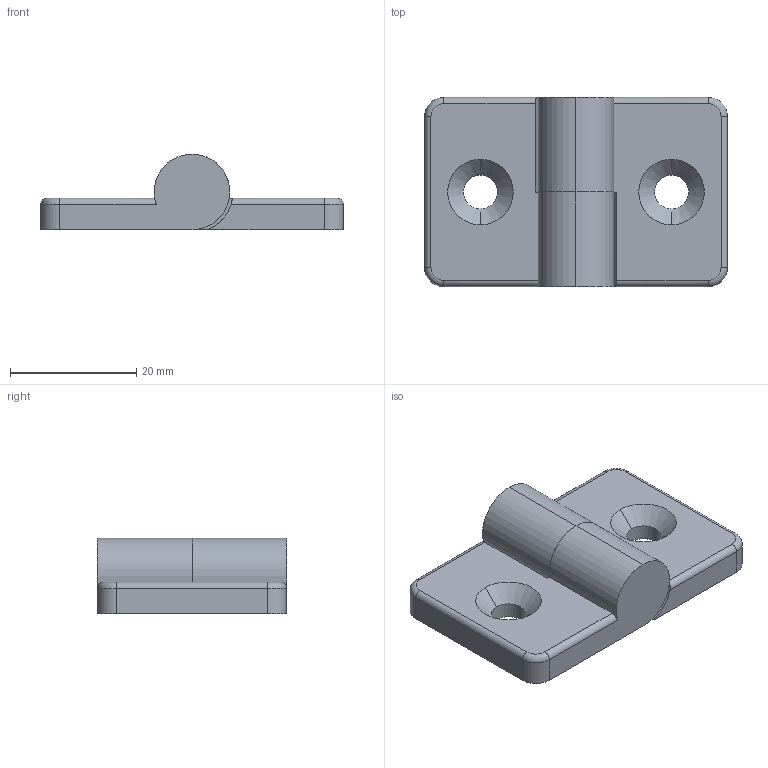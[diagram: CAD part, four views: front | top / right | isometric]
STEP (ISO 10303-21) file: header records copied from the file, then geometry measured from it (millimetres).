
FILE_DESCRIPTION(('FreeCAD Model'),'2;1');
FILE_NAME('Open CASCADE Shape Model','2021-05-04T11:33:51',('Author'),( ''),'Open CASCADE STEP processor 7.5','FreeCAD','Unknown');
FILE_SCHEMA(('AUTOMOTIVE_DESIGN { 1 0 10303 214 1 1 1 1 }'));
Length unit declared in the file: millimetre
Products named in the file (3): Unnamed; Assem1|S206SCHPAL TEIL 2#S206SCHPAL TEIL 2;S206SCHPAL TEIL 2; Assem1|S206SCHPAL TEIL 1#S206SCHPAL TEIL 1;S206SCHPAL TEIL 1
Assembly tree (2 placements, depth 2):
  Unnamed
    Assem1|S206SCHPAL TEIL 2#S206SCHPAL TEIL 2;S206SCHPAL TEIL 2
    Assem1|S206SCHPAL TEIL 1#S206SCHPAL TEIL 1;S206SCHPAL TEIL 1
Bounding box: 48 x 30 x 12 mm (x, y, z)
Volume: 8623.9 mm3; surface area: 5005.2 mm2
Topology: 2 solids, 2 shells, 48 faces, 116 edges, 74 vertices
Faces by surface type: cylinder 24, plane 14, cone 6, torus 4
Entity records: 3411 total; most frequent: CARTESIAN_POINT 761, DIRECTION 486, LINE 242, VECTOR 242, ORIENTED_EDGE 232, PCURVE 232, DEFINITIONAL_REPRESENTATION 232, EDGE_CURVE 116
